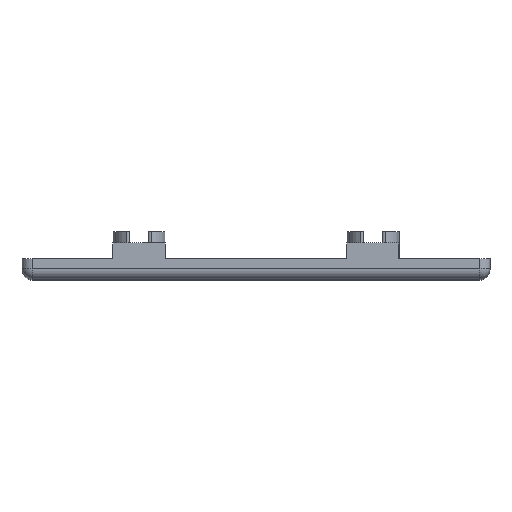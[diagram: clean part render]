
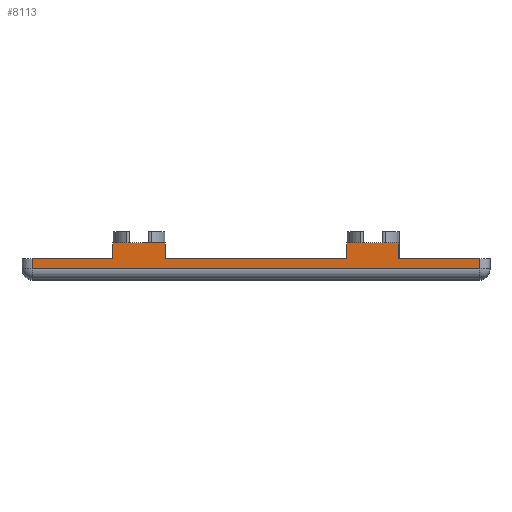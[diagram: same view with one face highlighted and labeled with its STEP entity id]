
A CAD part, top view. The second image highlights one B-rep face of the part: STEP entity #8113.
In plain terms, the highlighted planar face has unit normal (0, 0, 1).
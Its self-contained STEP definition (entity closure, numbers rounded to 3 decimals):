
#34 = VECTOR ( 'NONE', #7790, 1000. ) ;
#201 = LINE ( 'NONE', #5786, #8029 ) ;
#222 = EDGE_CURVE ( 'NONE', #7785, #6504, #2275, .T. ) ;
#514 = CARTESIAN_POINT ( 'NONE',  ( -27.5, 7., 45. ) ) ;
#535 = CARTESIAN_POINT ( 'NONE',  ( -43., 4., 45. ) ) ;
#739 = VERTEX_POINT ( 'NONE', #6609 ) ;
#825 = LINE ( 'NONE', #3070, #4850 ) ;
#864 = VERTEX_POINT ( 'NONE', #7918 ) ;
#990 = ORIENTED_EDGE ( 'NONE', *, *, #3225, .F. ) ;
#991 = AXIS2_PLACEMENT_3D ( 'NONE', #9067, #9840, #5271 ) ;
#998 = VERTEX_POINT ( 'NONE', #3575 ) ;
#1035 = VERTEX_POINT ( 'NONE', #3111 ) ;
#1098 = CARTESIAN_POINT ( 'NONE',  ( 43., 2., 45. ) ) ;
#1127 = ORIENTED_EDGE ( 'NONE', *, *, #222, .T. ) ;
#1247 = CARTESIAN_POINT ( 'NONE',  ( 43., 4., 45. ) ) ;
#1290 = DIRECTION ( 'NONE',  ( 1., 0., 0. ) ) ;
#1340 = VECTOR ( 'NONE', #5832, 1000. ) ;
#1463 = PLANE ( 'NONE',  #991 ) ;
#1631 = CARTESIAN_POINT ( 'NONE',  ( -17.5, 4., 45. ) ) ;
#1697 = DIRECTION ( 'NONE',  ( 0., -1., 0. ) ) ;
#1839 = EDGE_CURVE ( 'NONE', #1035, #2613, #201, .T. ) ;
#1960 = VERTEX_POINT ( 'NONE', #7735 ) ;
#2015 = ORIENTED_EDGE ( 'NONE', *, *, #1839, .T. ) ;
#2275 = LINE ( 'NONE', #6109, #34 ) ;
#2447 = CARTESIAN_POINT ( 'NONE',  ( -17.5, 7., 45. ) ) ;
#2526 = VERTEX_POINT ( 'NONE', #6754 ) ;
#2613 = VERTEX_POINT ( 'NONE', #3041 ) ;
#2731 = LINE ( 'NONE', #8852, #4475 ) ;
#2755 = CARTESIAN_POINT ( 'NONE',  ( 27.5, 7., 45. ) ) ;
#2765 = DIRECTION ( 'NONE',  ( 0., -1., 0. ) ) ;
#2805 = ORIENTED_EDGE ( 'NONE', *, *, #4684, .F. ) ;
#2886 = ORIENTED_EDGE ( 'NONE', *, *, #7536, .F. ) ;
#2972 = VECTOR ( 'NONE', #9171, 1000. ) ;
#3038 = DIRECTION ( 'NONE',  ( 1., 0., 0. ) ) ;
#3041 = CARTESIAN_POINT ( 'NONE',  ( -43., 2., 45. ) ) ;
#3046 = EDGE_LOOP ( 'NONE', ( #2015, #8232, #8577, #8821, #5056, #6578, #1127, #2805, #990, #8525, #8928, #2886 ) ) ;
#3070 = CARTESIAN_POINT ( 'NONE',  ( -43., 2., 45. ) ) ;
#3095 = CARTESIAN_POINT ( 'NONE',  ( 17.5, 7., 45. ) ) ;
#3111 = CARTESIAN_POINT ( 'NONE',  ( -43., 4., 45. ) ) ;
#3137 = EDGE_CURVE ( 'NONE', #864, #1960, #5621, .T. ) ;
#3219 = LINE ( 'NONE', #514, #5218 ) ;
#3225 = EDGE_CURVE ( 'NONE', #4039, #4023, #5867, .T. ) ;
#3363 = LINE ( 'NONE', #535, #1340 ) ;
#3575 = CARTESIAN_POINT ( 'NONE',  ( -27.5, 7., 45. ) ) ;
#3614 = VECTOR ( 'NONE', #5616, 1000. ) ;
#3787 = DIRECTION ( 'NONE',  ( 0., -1., 0. ) ) ;
#4023 = VERTEX_POINT ( 'NONE', #1631 ) ;
#4039 = VERTEX_POINT ( 'NONE', #2447 ) ;
#4137 = CARTESIAN_POINT ( 'NONE',  ( 17.5, 4., 45. ) ) ;
#4475 = VECTOR ( 'NONE', #1290, 1000. ) ;
#4601 = CARTESIAN_POINT ( 'NONE',  ( -43., 4., 45. ) ) ;
#4684 = EDGE_CURVE ( 'NONE', #4023, #6504, #3363, .T. ) ;
#4850 = VECTOR ( 'NONE', #3038, 1000. ) ;
#5056 = ORIENTED_EDGE ( 'NONE', *, *, #3137, .F. ) ;
#5059 = DIRECTION ( 'NONE',  ( 1., 0., 0. ) ) ;
#5218 = VECTOR ( 'NONE', #5059, 1000. ) ;
#5271 = DIRECTION ( 'NONE',  ( -1., 0., 0. ) ) ;
#5437 = LINE ( 'NONE', #7005, #7246 ) ;
#5480 = EDGE_CURVE ( 'NONE', #7785, #864, #5726, .T. ) ;
#5616 = DIRECTION ( 'NONE',  ( 0., -1., 0. ) ) ;
#5621 = LINE ( 'NONE', #7125, #3614 ) ;
#5726 = LINE ( 'NONE', #2755, #9778 ) ;
#5764 = CARTESIAN_POINT ( 'NONE',  ( -17.5, 7., 45. ) ) ;
#5785 = DIRECTION ( 'NONE',  ( 0., -1., 0. ) ) ;
#5786 = CARTESIAN_POINT ( 'NONE',  ( -43., 4., 45. ) ) ;
#5832 = DIRECTION ( 'NONE',  ( 1., 0., 0. ) ) ;
#5867 = LINE ( 'NONE', #5764, #9698 ) ;
#6109 = CARTESIAN_POINT ( 'NONE',  ( 17.5, 7., 45. ) ) ;
#6318 = EDGE_CURVE ( 'NONE', #1960, #2526, #7020, .T. ) ;
#6504 = VERTEX_POINT ( 'NONE', #4137 ) ;
#6524 = VECTOR ( 'NONE', #5785, 1000. ) ;
#6578 = ORIENTED_EDGE ( 'NONE', *, *, #5480, .F. ) ;
#6609 = CARTESIAN_POINT ( 'NONE',  ( -27.5, 4., 45. ) ) ;
#6754 = CARTESIAN_POINT ( 'NONE',  ( 43., 4., 45. ) ) ;
#6764 = LINE ( 'NONE', #1247, #6524 ) ;
#7005 = CARTESIAN_POINT ( 'NONE',  ( -27.5, 7., 45. ) ) ;
#7020 = LINE ( 'NONE', #4601, #2972 ) ;
#7067 = EDGE_CURVE ( 'NONE', #998, #4039, #3219, .T. ) ;
#7125 = CARTESIAN_POINT ( 'NONE',  ( 27.5, 7., 45. ) ) ;
#7246 = VECTOR ( 'NONE', #1697, 1000. ) ;
#7248 = EDGE_CURVE ( 'NONE', #2613, #9558, #825, .T. ) ;
#7536 = EDGE_CURVE ( 'NONE', #1035, #739, #2731, .T. ) ;
#7735 = CARTESIAN_POINT ( 'NONE',  ( 27.5, 4., 45. ) ) ;
#7785 = VERTEX_POINT ( 'NONE', #3095 ) ;
#7790 = DIRECTION ( 'NONE',  ( 0., -1., 0. ) ) ;
#7918 = CARTESIAN_POINT ( 'NONE',  ( 27.5, 7., 45. ) ) ;
#8029 = VECTOR ( 'NONE', #3787, 1000. ) ;
#8055 = DIRECTION ( 'NONE',  ( 1., 0., 0. ) ) ;
#8113 = ADVANCED_FACE ( 'NONE', ( #9247 ), #1463, .F. ) ;
#8232 = ORIENTED_EDGE ( 'NONE', *, *, #7248, .T. ) ;
#8525 = ORIENTED_EDGE ( 'NONE', *, *, #7067, .F. ) ;
#8577 = ORIENTED_EDGE ( 'NONE', *, *, #9124, .F. ) ;
#8821 = ORIENTED_EDGE ( 'NONE', *, *, #6318, .F. ) ;
#8852 = CARTESIAN_POINT ( 'NONE',  ( -43., 4., 45. ) ) ;
#8928 = ORIENTED_EDGE ( 'NONE', *, *, #9421, .T. ) ;
#9067 = CARTESIAN_POINT ( 'NONE',  ( -43., 4., 45. ) ) ;
#9124 = EDGE_CURVE ( 'NONE', #2526, #9558, #6764, .T. ) ;
#9171 = DIRECTION ( 'NONE',  ( 1., 0., 0. ) ) ;
#9247 = FACE_OUTER_BOUND ( 'NONE', #3046, .T. ) ;
#9421 = EDGE_CURVE ( 'NONE', #998, #739, #5437, .T. ) ;
#9558 = VERTEX_POINT ( 'NONE', #1098 ) ;
#9698 = VECTOR ( 'NONE', #2765, 1000. ) ;
#9778 = VECTOR ( 'NONE', #8055, 1000. ) ;
#9840 = DIRECTION ( 'NONE',  ( 0., 0., -1. ) ) ;
